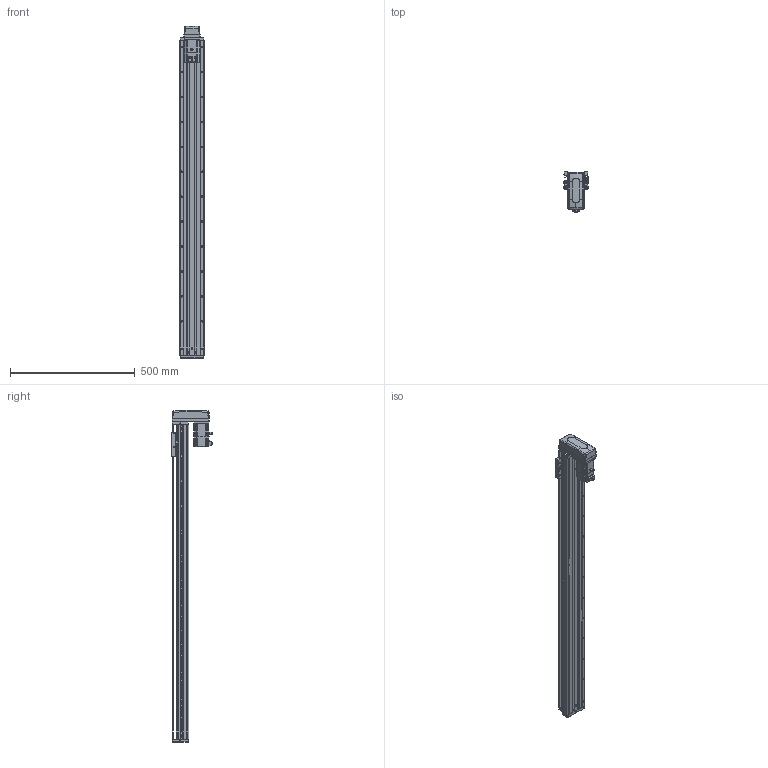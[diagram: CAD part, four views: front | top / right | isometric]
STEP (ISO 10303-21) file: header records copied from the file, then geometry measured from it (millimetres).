
FILE_DESCRIPTION (( 'STEP AP203' ), '1' );
FILE_NAME ('KTHA100-1100-BM-M20-C4L.step', '2022-04-26T01:52:03', ( '微软用户' ), ( '微软中国' ), 'SwSTEP 2.0', 'SolidWorks 2020', '' );
FILE_SCHEMA (( 'CONFIG_CONTROL_DESIGN' ));
Length unit declared in the file: millimetre
Products named in the file (17): CTHA86-033; KTHA100-004; GBT 70.1-M3℅6; KTHA100-1100-BM-M20-C4L; KTHA100-005; GBT70.1 M5℅16; GB¨uT 70.2-M3¡Á5_M3¡Á6; CTHA60-016; EE_SX911P_R; GBT 70.3-M3℅6; CTHA60-017; _X2_4E0983F1_X0_200W_1; KTHA100-001_1260; CTHA60-021; CTHA86-015-1_CTHA86-015-2; KTHA100-002; GBT77-2000 M3×3
Assembly tree (57 placements, depth 2):
  KTHA100-1100-BM-M20-C4L
    KTHA100-001_1260
    KTHA100-002
    KTHA100-004
    KTHA100-005
    GB¨uT 70.2-M3¡Á5_M3¡Á6  x6
    EE_SX911P_R  x3
    CTHA60-017  x3
    CTHA60-021  x2
    GBT77-2000 M3×3  x6
    GBT 70.1-M3℅6  x10
    GBT70.1 M5℅16  x14
    CTHA60-016  x2
    GBT 70.3-M3℅6  x4
    _X2_4E0983F1_X0_200W_1
    CTHA86-015-1_CTHA86-015-2
    CTHA86-033
Bounding box: 98.82 x 163.2 x 1331 mm (x, y, z)
Volume: 5474617.8 mm3; surface area: 883129.2 mm2
Topology: 60 solids, 60 shells, 2537 faces, 6113 edges, 3796 vertices
Faces by surface type: plane 1304, cylinder 707, cone 319, torus 116, bspline 75, sphere 16
Entity records: 45178 total; most frequent: CARTESIAN_POINT 9008, DIRECTION 7042, ORIENTED_EDGE 6838, EDGE_CURVE 3419, AXIS2_PLACEMENT_3D 2438, LINE 2166, VECTOR 2166, VERTEX_POINT 2156
